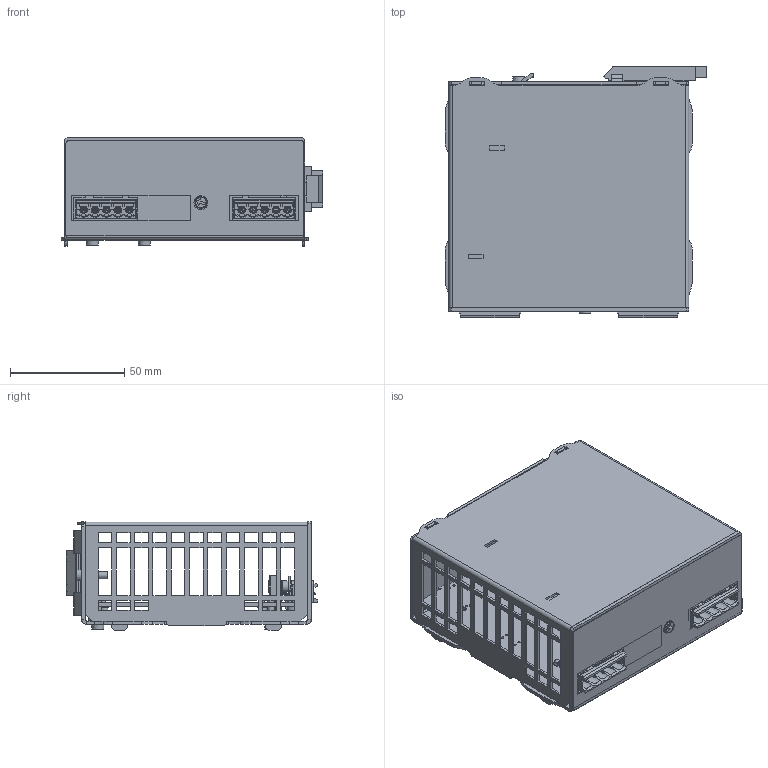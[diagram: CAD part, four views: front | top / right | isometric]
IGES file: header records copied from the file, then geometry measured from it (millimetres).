
Global section: file name: No Iges File Name specified; native system: Autodesk Inventor 2012; preprocessor: AutoDesk Inventor Iges Exporter R2012; author: Tecnico2; date: 20151202.095123; units: millimetre
Bounding box: 114.5 x 110.21 x 47.6 mm (x, y, z)
Volume: 64599.3 mm3; surface area: 110108.2 mm2
Topology: 46 solids, 46 shells, 3134 faces, 8401 edges, 5366 vertices
Faces by surface type: plane 1833, cylinder 588, revolution 324, torus 188, bspline 134, sphere 43, cone 24
Full cylindrical faces by diameter (mm): 2.4 x2, 2.675 x4, 2.75 x10, 2.8 x1, 3 x4, 3.8 x3, 4.3 x6, 5 x3, 5.594 x1, 6 x3, 9 x1
